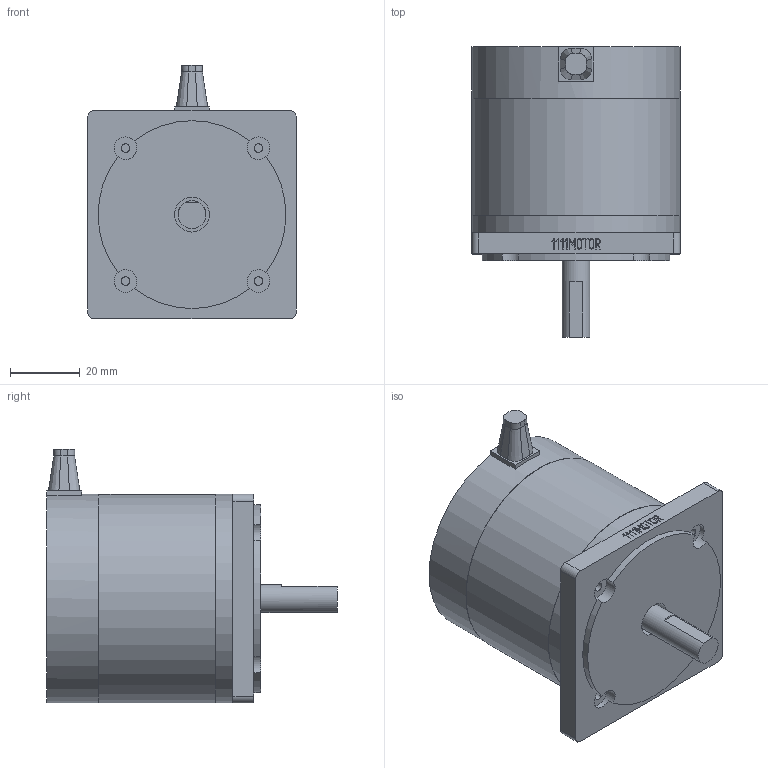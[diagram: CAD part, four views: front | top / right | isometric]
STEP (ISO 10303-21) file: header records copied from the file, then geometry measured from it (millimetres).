
FILE_DESCRIPTION(/* description */ ('Unknown'),/* implementation_level */ '2;1');
FILE_NAME(/* name */ 'BL60S',/* time_stamp */ '2022-08-15T11:28:43+08:00',/* author */ ('Unknown'),/* organization */ ('Unknown'),/* preprocessor_version */ 'ST-DEVELOPER v16.7',/* originating_system */ 'DEX',/* authorisation */ $);
FILE_SCHEMA (('AUTOMOTIVE_DESIGN {1 0 10303 214 3 1 1}'));
Length unit declared in the file: millimetre
Products named in the file (5): BL60S; BL60S_0; BL60S_1; BL60S_2
Assembly tree (4 placements, depth 2):
  BL60S
    BL60S
    BL60S_0
    BL60S_1
    BL60S_2
Bounding box: 60 x 83.5 x 73 mm (x, y, z)
Volume: 121966.3 mm3; surface area: 37445.8 mm2
Topology: 4 solids, 4 shells, 222 faces, 553 edges, 367 vertices
Faces by surface type: plane 176, cylinder 28, bspline 18
Full cylindrical faces by diameter (mm): 2.459 x4, 6.5 x4, 8 x1, 10 x1, 30 x2, 50 x1, 60 x3
Entity records: 9518 total; most frequent: CARTESIAN_POINT 2887, ORIENTED_EDGE 1030, DIRECTION 940, EDGE_CURVE 515, LINE 400, VECTOR 400, VERTEX_POINT 353, EDGE_LOOP 286
